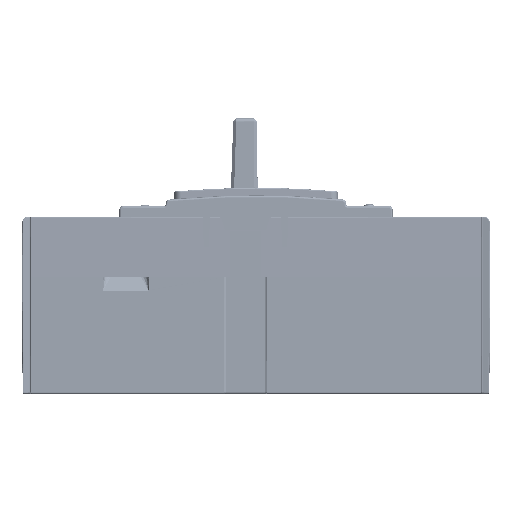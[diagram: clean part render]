
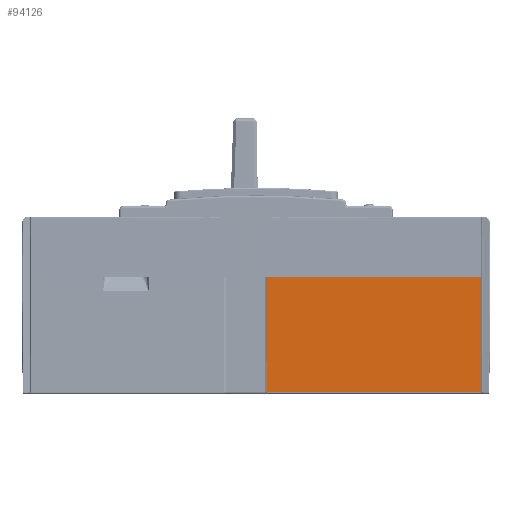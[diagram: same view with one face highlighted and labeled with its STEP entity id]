
A CAD part, front view. The second image highlights one B-rep face of the part: STEP entity #94126.
In plain terms, the highlighted planar face has unit normal (0, -1, -0.005).
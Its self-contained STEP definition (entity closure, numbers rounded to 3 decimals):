
#9219=PLANE('',#101689);
#13710=FACE_OUTER_BOUND('',#18913,.T.);
#18913=EDGE_LOOP('',(#83412,#83413,#83414,#83415));
#29251=LINE('',#257276,#37915);
#29839=LINE('',#258995,#38503);
#29842=LINE('',#259004,#38506);
#29857=LINE('',#259327,#38521);
#37915=VECTOR('',#120417,117.344);
#38503=VECTOR('',#121715,63.203);
#38506=VECTOR('',#121724,63.203);
#38521=VECTOR('',#121803,117.344);
#47185=VERTEX_POINT('',#257273);
#47186=VERTEX_POINT('',#257275);
#47711=VERTEX_POINT('',#258994);
#47714=VERTEX_POINT('',#259002);
#59230=EDGE_CURVE('',#47186,#47185,#29251,.T.);
#59986=EDGE_CURVE('',#47711,#47186,#29839,.F.);
#59991=EDGE_CURVE('',#47185,#47714,#29842,.T.);
#60025=EDGE_CURVE('',#47714,#47711,#29857,.T.);
#83412=ORIENTED_EDGE('',*,*,#59986,.T.);
#83413=ORIENTED_EDGE('',*,*,#59230,.T.);
#83414=ORIENTED_EDGE('',*,*,#59991,.T.);
#83415=ORIENTED_EDGE('',*,*,#60025,.T.);
#94126=ADVANCED_FACE('',(#13710),#9219,.T.);
#101689=AXIS2_PLACEMENT_3D('',#259326,#121801,#121802);
#120417=DIRECTION('',(-1.,0.,0.));
#121715=DIRECTION('',(0.,0.005,-1.));
#121724=DIRECTION('',(0.,0.005,-1.));
#121801=DIRECTION('center_axis',(0.,-1.,-0.005));
#121802=DIRECTION('ref_axis',(0.,0.005,-1.));
#121803=DIRECTION('',(1.,0.,0.));
#257273=CARTESIAN_POINT('',(-20.9,-302.3,52.9));
#257275=CARTESIAN_POINT('',(96.444,-302.3,52.9));
#257276=CARTESIAN_POINT('',(96.444,-302.3,52.9));
#258994=CARTESIAN_POINT('',(96.444,-301.969,-10.304));
#258995=CARTESIAN_POINT('',(96.444,-302.3,52.9));
#259002=CARTESIAN_POINT('',(-20.9,-301.969,-10.304));
#259004=CARTESIAN_POINT('',(-20.9,-302.3,52.9));
#259326=CARTESIAN_POINT('Origin',(-155.4,-302.3,52.9));
#259327=CARTESIAN_POINT('',(-20.9,-301.969,-10.304));
